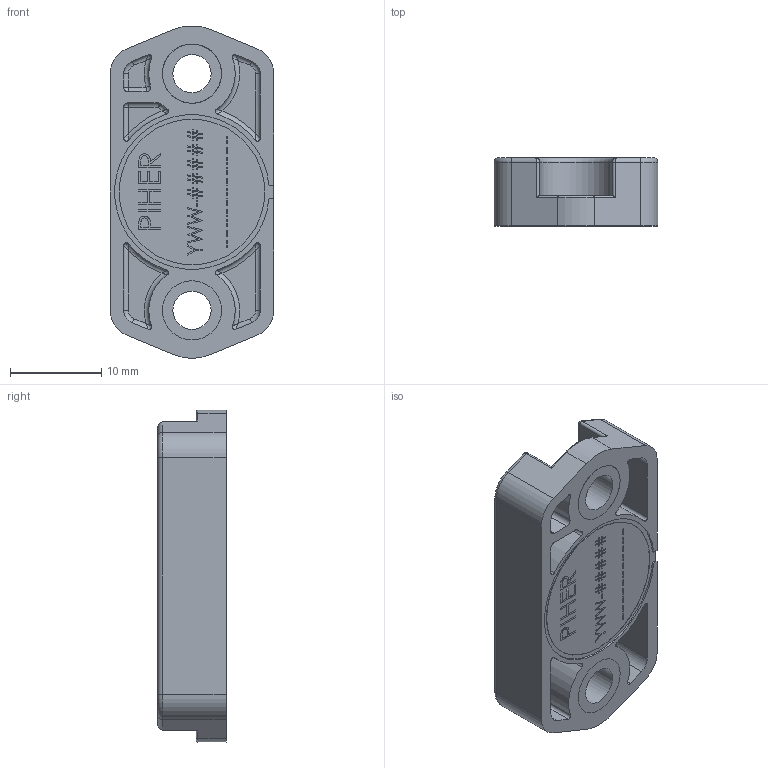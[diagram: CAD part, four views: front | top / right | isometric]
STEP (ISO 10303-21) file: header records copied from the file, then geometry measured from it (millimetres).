
FILE_DESCRIPTION (( 'STEP AP203' ), '1' );
FILE_NAME ('11437 PS2P-CMAGNT-001.STEP', '2018-08-30T11:30:39', ( '' ), ( '' ), 'SwSTEP 2.0', 'SolidWorks 2016', '' );
FILE_SCHEMA (( 'CONFIG_CONTROL_DESIGN' ));
Length unit declared in the file: millimetre
Products named in the file (1): 11437 PS2P-CMAGNT-001
Bounding box: 18 x 7.5 x 36.47 mm (x, y, z)
Volume: 3266.7 mm3; surface area: 3347.6 mm2
Topology: 4 solids, 4 shells, 2694 faces, 7488 edges, 4946 vertices
Faces by surface type: plane 2372, cylinder 193, bspline 96, torus 29, sphere 4
Full cylindrical faces by diameter (mm): 1 x1, 4.2 x2, 5.8 x2, 5.9 x6, 6.5 x8, 16 x1
Entity records: 89888 total; most frequent: CARTESIAN_POINT 32543, ORIENTED_EDGE 14864, DIRECTION 8959, EDGE_CURVE 7432, VERTEX_POINT 4940, VECTOR 3351, LINE 3351, EDGE_LOOP 2896
